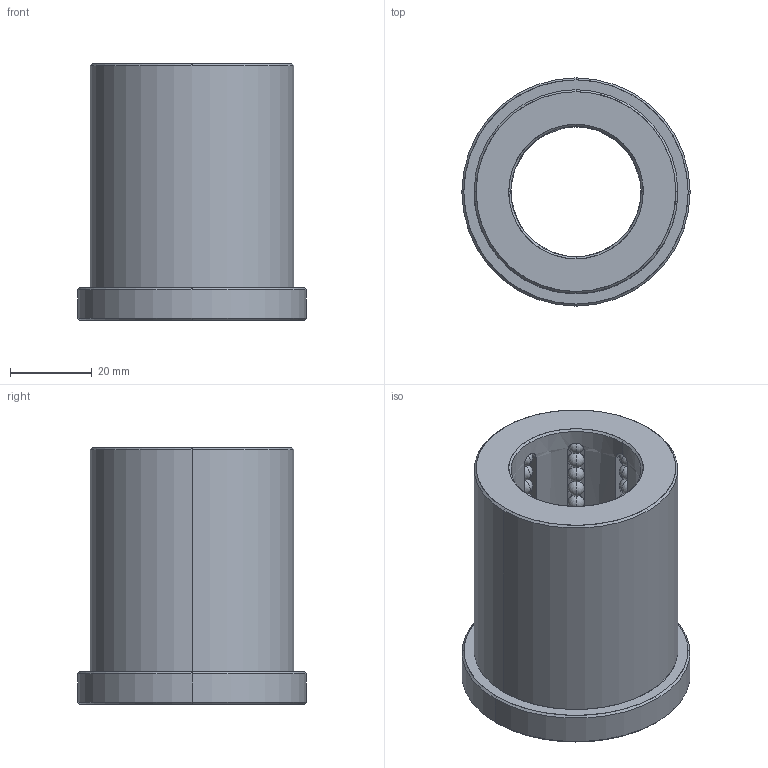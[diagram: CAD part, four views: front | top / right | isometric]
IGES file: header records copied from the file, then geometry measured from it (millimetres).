
Start section: START RECORD GO HERE.
Global section: file name: B8013263.igs; native system: DASSAULT SYSTEMES CATIA V5 R20 - www.3ds.com; preprocessor: CATIA Version 5 Release 20 ; author: Utente; organization: NB04-ASUS; date: 20200419.142835; units: millimetre
Bounding box: 56 x 56 x 63 mm (x, y, z)
Surface area: 28365.9 mm2 (no closed solid volume)
Topology: 0 solids, 0 shells, 485 faces, 2004 edges, 1172 vertices
Faces by surface type: revolution 458, plane 27
